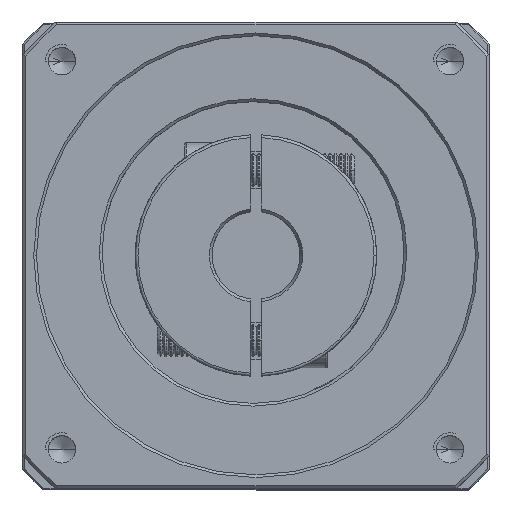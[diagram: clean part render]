
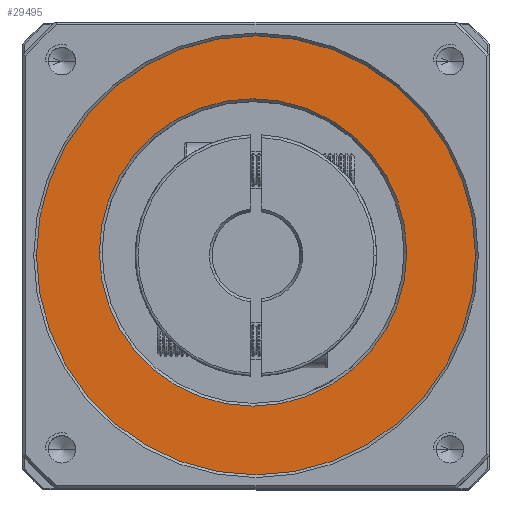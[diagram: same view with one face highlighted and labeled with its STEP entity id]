
A CAD part, top view. The second image highlights one B-rep face of the part: STEP entity #29495.
In plain terms, the highlighted planar face has unit normal (0, 0, 1).
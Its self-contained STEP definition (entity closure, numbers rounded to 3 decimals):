
#7814 = EDGE_LOOP ( 'NONE', ( #97993, #20553 ) ) ;
#10817 = EDGE_LOOP ( 'NONE', ( #65842, #61444 ) ) ;
#12439 = DIRECTION ( 'NONE',  ( 1., 0., 0. ) ) ;
#12757 = EDGE_CURVE ( 'NONE', #104814, #20720, #74424, .T. ) ;
#14721 = DIRECTION ( 'NONE',  ( 0., 0., -1. ) ) ;
#16371 = VERTEX_POINT ( 'NONE', #36745 ) ;
#20017 = CIRCLE ( 'NONE', #36551, 40. ) ;
#20553 = ORIENTED_EDGE ( 'NONE', *, *, #39597, .T. ) ;
#20720 = VERTEX_POINT ( 'NONE', #47072 ) ;
#21681 = DIRECTION ( 'NONE',  ( 0., 0., 1. ) ) ;
#22445 = PLANE ( 'NONE',  #33038 ) ;
#29495 = ADVANCED_FACE ( 'NONE', ( #64605, #106494 ), #22445, .T. ) ;
#32599 = EDGE_CURVE ( 'NONE', #68773, #16371, #81864, .T. ) ;
#33038 = AXIS2_PLACEMENT_3D ( 'NONE', #69356, #117403, #12439 ) ;
#36240 = AXIS2_PLACEMENT_3D ( 'NONE', #63718, #45390, #44975 ) ;
#36551 = AXIS2_PLACEMENT_3D ( 'NONE', #73419, #62986, #101847 ) ;
#36745 = CARTESIAN_POINT ( 'NONE',  ( -81.825, 29.885, -1.826 ) ) ;
#39597 = EDGE_CURVE ( 'NONE', #16371, #68773, #20017, .T. ) ;
#40735 = CARTESIAN_POINT ( 'NONE',  ( -41.825, 29.885, -1.826 ) ) ;
#42571 = CARTESIAN_POINT ( 'NONE',  ( -42.367, 30.419, -1.826 ) ) ;
#44975 = DIRECTION ( 'NONE',  ( 1., 0., 0. ) ) ;
#45390 = DIRECTION ( 'NONE',  ( 0., 0., -1. ) ) ;
#47072 = CARTESIAN_POINT ( 'NONE',  ( -14.367, 30.419, -1.826 ) ) ;
#51116 = AXIS2_PLACEMENT_3D ( 'NONE', #42571, #14721, #61692 ) ;
#61444 = ORIENTED_EDGE ( 'NONE', *, *, #12757, .T. ) ;
#61692 = DIRECTION ( 'NONE',  ( 1., 0., 0. ) ) ;
#62986 = DIRECTION ( 'NONE',  ( 0., 0., 1. ) ) ;
#63718 = CARTESIAN_POINT ( 'NONE',  ( -42.367, 30.419, -1.826 ) ) ;
#64605 = FACE_OUTER_BOUND ( 'NONE', #7814, .T. ) ;
#65842 = ORIENTED_EDGE ( 'NONE', *, *, #96779, .T. ) ;
#68773 = VERTEX_POINT ( 'NONE', #85798 ) ;
#69356 = CARTESIAN_POINT ( 'NONE',  ( -41.825, 29.885, -1.826 ) ) ;
#70677 = DIRECTION ( 'NONE',  ( 1., 0., 0. ) ) ;
#73419 = CARTESIAN_POINT ( 'NONE',  ( -41.825, 29.885, -1.826 ) ) ;
#74424 = CIRCLE ( 'NONE', #36240, 28. ) ;
#81864 = CIRCLE ( 'NONE', #100343, 40. ) ;
#85798 = CARTESIAN_POINT ( 'NONE',  ( -1.825, 29.885, -1.826 ) ) ;
#93648 = CIRCLE ( 'NONE', #51116, 28. ) ;
#95642 = CARTESIAN_POINT ( 'NONE',  ( -70.367, 30.419, -1.826 ) ) ;
#96779 = EDGE_CURVE ( 'NONE', #20720, #104814, #93648, .T. ) ;
#97993 = ORIENTED_EDGE ( 'NONE', *, *, #32599, .T. ) ;
#100343 = AXIS2_PLACEMENT_3D ( 'NONE', #40735, #21681, #70677 ) ;
#101847 = DIRECTION ( 'NONE',  ( 1., 0., 0. ) ) ;
#104814 = VERTEX_POINT ( 'NONE', #95642 ) ;
#106494 = FACE_BOUND ( 'NONE', #10817, .T. ) ;
#117403 = DIRECTION ( 'NONE',  ( 0., 0., 1. ) ) ;
